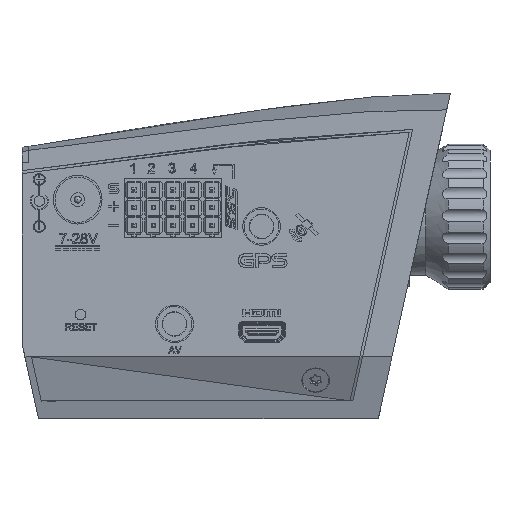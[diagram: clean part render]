
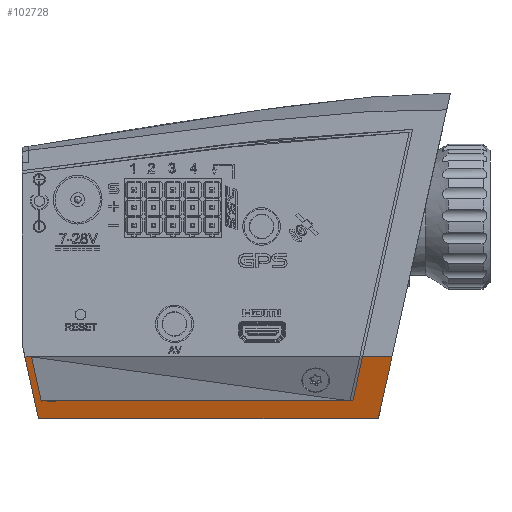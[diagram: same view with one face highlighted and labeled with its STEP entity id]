
A CAD part, left-side view. The second image highlights one B-rep face of the part: STEP entity #102728.
In plain terms, the highlighted planar face has unit normal (-0.956, 0, -0.293).
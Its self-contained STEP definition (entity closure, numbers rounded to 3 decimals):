
#10361=FACE_OUTER_BOUND('',#16262,.T.);
#16262=EDGE_LOOP('',(#87012,#87013,#87014,#87015,#87016,#87017,#87018,#87019,
#87020,#87021,#87022,#87023,#87024,#87025,#87026,#87027));
#25106=LINE('',#168827,#35798);
#26665=LINE('',#175004,#37357);
#26673=LINE('',#175020,#37365);
#26838=LINE('',#175355,#37530);
#26841=LINE('',#175361,#37533);
#26843=LINE('',#175365,#37535);
#26846=LINE('',#175371,#37538);
#26847=LINE('',#175373,#37539);
#26848=LINE('',#175375,#37540);
#26849=LINE('',#175377,#37541);
#26850=LINE('',#175379,#37542);
#26851=LINE('',#175381,#37543);
#26852=LINE('',#175382,#37544);
#26853=LINE('',#175384,#37545);
#26854=LINE('',#175385,#37546);
#35798=VECTOR('',#130804,0.933);
#37357=VECTOR('',#133733,9.51);
#37365=VECTOR('',#133745,48.783);
#37530=VECTOR('',#133966,0.01);
#37533=VECTOR('',#133971,0.043);
#37535=VECTOR('',#133975,1.998);
#37538=VECTOR('',#133980,9.513);
#37539=VECTOR('',#133981,4.213);
#37540=VECTOR('',#133982,6.76);
#37541=VECTOR('',#133983,1.022);
#37542=VECTOR('',#133984,0.41);
#37543=VECTOR('',#133985,42.29);
#37544=VECTOR('',#133986,0.021);
#37545=VECTOR('',#133987,0.043);
#37546=VECTOR('',#133988,6.759);
#45476=VERTEX_POINT('',#168824);
#45477=VERTEX_POINT('',#168826);
#46854=VERTEX_POINT('',#175002);
#46860=VERTEX_POINT('',#175018);
#46997=VERTEX_POINT('',#175353);
#46998=VERTEX_POINT('',#175354);
#47000=VERTEX_POINT('',#175360);
#47001=VERTEX_POINT('',#175364);
#47003=VERTEX_POINT('',#175370);
#47004=VERTEX_POINT('',#175372);
#47005=VERTEX_POINT('',#175374);
#47006=VERTEX_POINT('',#175376);
#47007=VERTEX_POINT('',#175378);
#47008=VERTEX_POINT('',#175380);
#47009=VERTEX_POINT('',#175383);
#58295=EDGE_CURVE('',#45476,#45477,#25106,.T.);
#60321=EDGE_CURVE('',#46854,#45476,#26665,.T.);
#60329=EDGE_CURVE('',#46854,#46860,#26673,.T.);
#60496=EDGE_CURVE('',#46997,#46998,#26838,.T.);
#60499=EDGE_CURVE('',#46998,#47000,#26841,.T.);
#60501=EDGE_CURVE('',#47000,#47001,#26843,.T.);
#60504=EDGE_CURVE('',#46860,#47003,#26846,.T.);
#60505=EDGE_CURVE('',#47003,#47004,#26847,.T.);
#60506=EDGE_CURVE('',#47005,#47004,#26848,.T.);
#60507=EDGE_CURVE('',#47005,#47006,#26849,.T.);
#60508=EDGE_CURVE('',#47007,#47005,#26850,.T.);
#60509=EDGE_CURVE('',#47008,#47007,#26851,.T.);
#60510=EDGE_CURVE('',#47008,#47001,#26852,.T.);
#60511=EDGE_CURVE('',#47009,#46997,#26853,.T.);
#60512=EDGE_CURVE('',#45477,#47009,#26854,.T.);
#87012=ORIENTED_EDGE('',*,*,#60329,.T.);
#87013=ORIENTED_EDGE('',*,*,#60504,.T.);
#87014=ORIENTED_EDGE('',*,*,#60505,.T.);
#87015=ORIENTED_EDGE('',*,*,#60506,.F.);
#87016=ORIENTED_EDGE('',*,*,#60507,.T.);
#87017=ORIENTED_EDGE('',*,*,#60507,.F.);
#87018=ORIENTED_EDGE('',*,*,#60508,.F.);
#87019=ORIENTED_EDGE('',*,*,#60509,.F.);
#87020=ORIENTED_EDGE('',*,*,#60510,.T.);
#87021=ORIENTED_EDGE('',*,*,#60501,.F.);
#87022=ORIENTED_EDGE('',*,*,#60499,.F.);
#87023=ORIENTED_EDGE('',*,*,#60496,.F.);
#87024=ORIENTED_EDGE('',*,*,#60511,.F.);
#87025=ORIENTED_EDGE('',*,*,#60512,.F.);
#87026=ORIENTED_EDGE('',*,*,#58295,.F.);
#87027=ORIENTED_EDGE('',*,*,#60321,.F.);
#92447=PLANE('',#109975);
#102728=ADVANCED_FACE('',(#10361),#92447,.T.);
#109975=AXIS2_PLACEMENT_3D('',#175369,#133978,#133979);
#130804=DIRECTION('',(0.,-1.,0.));
#133733=DIRECTION('',(-0.287,0.205,0.936));
#133745=DIRECTION('',(0.,-1.,0.));
#133966=DIRECTION('',(0.287,-0.205,-0.936));
#133971=DIRECTION('',(-0.066,-0.975,0.214));
#133975=DIRECTION('',(0.003,-1.,-0.009));
#133978=DIRECTION('center_axis',(-0.956,0.,
-0.293));
#133979=DIRECTION('ref_axis',(0.,1.,0.));
#133980=DIRECTION('',(-0.287,-0.207,0.935));
#133981=DIRECTION('',(0.,1.,0.));
#133982=DIRECTION('',(-0.287,-0.206,0.935));
#133983=DIRECTION('',(0.287,0.206,-0.936));
#133984=DIRECTION('',(0.,-1.,0.));
#133985=DIRECTION('',(0.,-1.,0.));
#133986=DIRECTION('',(0.286,-0.222,-0.932));
#133987=DIRECTION('',(0.003,-1.,-0.009));
#133988=DIRECTION('',(0.287,-0.205,-0.936));
#168824=CARTESIAN_POINT('',(-10.,-103.245,9.779));
#168826=CARTESIAN_POINT('',(-10.,-104.178,9.779));
#168827=CARTESIAN_POINT('',(-10.,-101.46,9.779));
#175002=CARTESIAN_POINT('',(-7.271,-105.199,0.882));
#175004=CARTESIAN_POINT('',(-8.082,-104.619,3.526));
#175018=CARTESIAN_POINT('',(-7.271,-153.982,0.882));
#175020=CARTESIAN_POINT('',(-7.271,-128.642,0.882));
#175353=CARTESIAN_POINT('',(-8.06,-105.61,3.456));
#175354=CARTESIAN_POINT('',(-8.057,-105.612,3.446));
#175355=CARTESIAN_POINT('',(-8.467,-105.319,4.783));
#175360=CARTESIAN_POINT('',(-8.06,-105.654,3.455));
#175361=CARTESIAN_POINT('',(-8.045,-105.428,3.406));
#175364=CARTESIAN_POINT('',(-8.054,-107.652,3.437));
#175365=CARTESIAN_POINT('',(-8.065,-103.93,3.471));
#175369=CARTESIAN_POINT('Origin',(-10.266,-151.928,10.646));
#175370=CARTESIAN_POINT('',(-10.,-155.955,9.779));
#175371=CARTESIAN_POINT('',(-7.656,-154.261,2.138));
#175372=CARTESIAN_POINT('',(-10.,-151.742,9.779));
#175373=CARTESIAN_POINT('',(-10.,-156.237,9.779));
#175374=CARTESIAN_POINT('',(-8.06,-150.347,3.456));
#175375=CARTESIAN_POINT('',(-8.06,-150.347,3.456));
#175376=CARTESIAN_POINT('',(-7.767,-150.137,2.5));
#175377=CARTESIAN_POINT('',(-8.06,-150.347,3.456));
#175378=CARTESIAN_POINT('',(-8.06,-149.938,3.456));
#175379=CARTESIAN_POINT('',(-8.06,-149.938,3.456));
#175380=CARTESIAN_POINT('',(-8.06,-107.648,3.456));
#175381=CARTESIAN_POINT('',(-8.06,-105.567,3.456));
#175382=CARTESIAN_POINT('',(-7.697,-107.93,2.274));
#175383=CARTESIAN_POINT('',(-8.06,-105.567,3.456));
#175384=CARTESIAN_POINT('',(-8.065,-103.93,3.471));
#175385=CARTESIAN_POINT('',(-9.437,-104.581,7.945));
